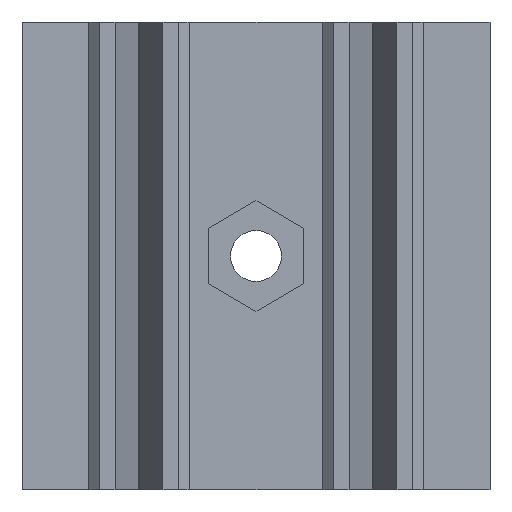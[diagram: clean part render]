
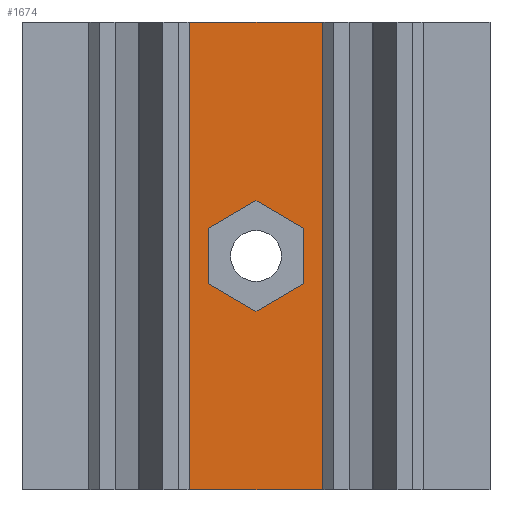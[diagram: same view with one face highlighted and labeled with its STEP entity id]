
A CAD part, front view. The second image highlights one B-rep face of the part: STEP entity #1674.
In plain terms, the highlighted planar face has unit normal (0, -1, 0).
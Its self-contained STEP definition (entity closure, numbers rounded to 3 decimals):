
#72=FACE_BOUND('',#326,.T.);
#222=FACE_OUTER_BOUND('',#325,.T.);
#325=EDGE_LOOP('',(#1402,#1403,#1404,#1405));
#326=EDGE_LOOP('',(#1406,#1407,#1408,#1409,#1410,#1411));
#364=LINE('',#2459,#519);
#367=LINE('',#2464,#522);
#369=LINE('',#2468,#524);
#371=LINE('',#2472,#526);
#373=LINE('',#2476,#528);
#375=LINE('',#2479,#530);
#404=LINE('',#2706,#559);
#464=LINE('',#2826,#619);
#465=LINE('',#2828,#620);
#466=LINE('',#2829,#621);
#519=VECTOR('',#1930,10.);
#522=VECTOR('',#1935,10.);
#524=VECTOR('',#1939,10.);
#526=VECTOR('',#1943,10.);
#528=VECTOR('',#1947,10.);
#530=VECTOR('',#1951,10.);
#559=VECTOR('',#2176,10.);
#619=VECTOR('',#2278,10.);
#620=VECTOR('',#2279,10.);
#621=VECTOR('',#2280,10.);
#694=VERTEX_POINT('',#2457);
#695=VERTEX_POINT('',#2458);
#696=VERTEX_POINT('',#2463);
#697=VERTEX_POINT('',#2467);
#698=VERTEX_POINT('',#2471);
#699=VERTEX_POINT('',#2475);
#750=VERTEX_POINT('',#2702);
#751=VERTEX_POINT('',#2704);
#790=VERTEX_POINT('',#2825);
#791=VERTEX_POINT('',#2827);
#855=EDGE_CURVE('',#694,#695,#364,.T.);
#858=EDGE_CURVE('',#695,#696,#367,.T.);
#860=EDGE_CURVE('',#696,#697,#369,.T.);
#862=EDGE_CURVE('',#697,#698,#371,.T.);
#864=EDGE_CURVE('',#699,#694,#373,.T.);
#866=EDGE_CURVE('',#698,#699,#375,.T.);
#959=EDGE_CURVE('',#750,#751,#404,.T.);
#1019=EDGE_CURVE('',#750,#790,#464,.T.);
#1020=EDGE_CURVE('',#791,#751,#465,.T.);
#1021=EDGE_CURVE('',#790,#791,#466,.T.);
#1402=ORIENTED_EDGE('',*,*,#1019,.F.);
#1403=ORIENTED_EDGE('',*,*,#959,.T.);
#1404=ORIENTED_EDGE('',*,*,#1020,.F.);
#1405=ORIENTED_EDGE('',*,*,#1021,.F.);
#1406=ORIENTED_EDGE('',*,*,#862,.T.);
#1407=ORIENTED_EDGE('',*,*,#866,.T.);
#1408=ORIENTED_EDGE('',*,*,#864,.T.);
#1409=ORIENTED_EDGE('',*,*,#855,.T.);
#1410=ORIENTED_EDGE('',*,*,#858,.T.);
#1411=ORIENTED_EDGE('',*,*,#860,.T.);
#1582=PLANE('',#1837);
#1674=ADVANCED_FACE('',(#222,#72),#1582,.T.);
#1837=AXIS2_PLACEMENT_3D('',#2824,#2276,#2277);
#1930=DIRECTION('',(-0.866,0.,0.5));
#1935=DIRECTION('',(0.,0.,1.));
#1939=DIRECTION('',(0.866,0.,0.5));
#1943=DIRECTION('',(0.866,0.,-0.5));
#1947=DIRECTION('',(-0.866,0.,-0.5));
#1951=DIRECTION('',(0.,0.,-1.));
#2176=DIRECTION('',(0.,0.,1.));
#2276=DIRECTION('center_axis',(0.,-1.,0.));
#2277=DIRECTION('ref_axis',(1.,0.,0.));
#2278=DIRECTION('',(-1.,0.,0.));
#2279=DIRECTION('',(1.,0.,0.));
#2280=DIRECTION('',(0.,0.,1.));
#2457=CARTESIAN_POINT('',(-5.,0.,7.633));
#2458=CARTESIAN_POINT('',(-7.05,0.,8.816));
#2459=CARTESIAN_POINT('',(-4.454,0.,7.317));
#2463=CARTESIAN_POINT('',(-7.05,0.,11.184));
#2464=CARTESIAN_POINT('',(-7.05,0.,4.408));
#2467=CARTESIAN_POINT('',(-5.,0.,12.367));
#2468=CARTESIAN_POINT('',(-9.809,0.,9.591));
#2471=CARTESIAN_POINT('',(-2.95,0.,11.184));
#2472=CARTESIAN_POINT('',(-3.429,0.,11.46));
#2475=CARTESIAN_POINT('',(-2.95,0.,8.816));
#2476=CARTESIAN_POINT('',(-6.734,0.,6.632));
#2479=CARTESIAN_POINT('',(-2.95,0.,5.592));
#2702=CARTESIAN_POINT('',(-2.05,0.,0.));
#2704=CARTESIAN_POINT('',(-2.05,0.,20.));
#2706=CARTESIAN_POINT('',(-2.05,0.,0.));
#2824=CARTESIAN_POINT('Origin',(-7.95,0.,0.));
#2825=CARTESIAN_POINT('',(-7.95,0.,0.));
#2826=CARTESIAN_POINT('',(-2.25,0.,0.));
#2827=CARTESIAN_POINT('',(-7.95,0.,20.));
#2828=CARTESIAN_POINT('',(-8.3,0.,20.));
#2829=CARTESIAN_POINT('',(-7.95,0.,0.));
